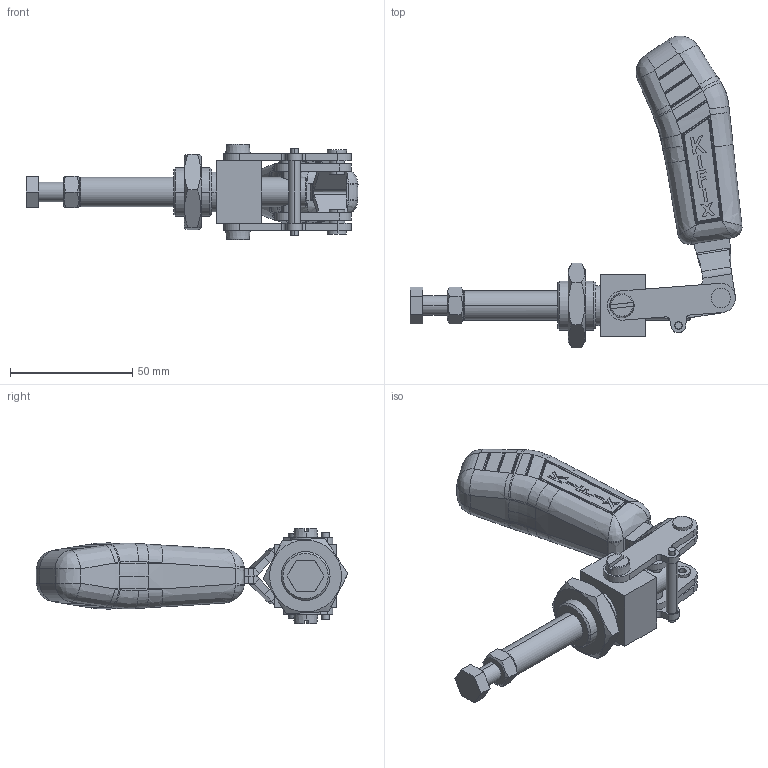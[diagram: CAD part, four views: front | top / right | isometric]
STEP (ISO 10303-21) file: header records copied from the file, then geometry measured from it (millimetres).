
FILE_DESCRIPTION (( 'STEP AP203' ), '1' );
FILE_NAME ('KF-006.STEP', '2014-08-26T17:32:06', ( 'Ricardo' ), ( '' ), 'SwSTEP 2.0', 'SolidWorks 2013', '' );
FILE_SCHEMA (( 'CONFIG_CONTROL_DESIGN' ));
Length unit declared in the file: millimetre
Products named in the file (15): 11.20004; 03.20032; KF-006; 06.50032; 16.20049; 3670000100; 12.50011; 07.60001; 01.10073_Direita; 11.50002; 01.10073_Esquerda; 12.50020; 08.10034; 02.20003; PP-M8
Assembly tree (17 placements, depth 3):
  KF-006
    02.20003
    03.20032
    01.10073_Direita
    01.10073_Esquerda
    08.10034  x2
    11.20004
    06.50032  x2
    16.20049
    3670000100
    12.50011  x2
    07.60001
    PP-M8
      11.50002
      12.50020
Bounding box: 135.82 x 127.52 x 39.2 mm (x, y, z)
Volume: 89306 mm3; surface area: 40164.1 mm2
Topology: 16 solids, 16 shells, 581 faces, 1461 edges, 931 vertices
Faces by surface type: plane 243, cylinder 165, bspline 130, cone 36, torus 7
Entity records: 21784 total; most frequent: CARTESIAN_POINT 8631, ORIENTED_EDGE 2700, DIRECTION 1902, EDGE_CURVE 1350, VERTEX_POINT 864, AXIS2_PLACEMENT_3D 675, EDGE_LOOP 594, VECTOR 552
